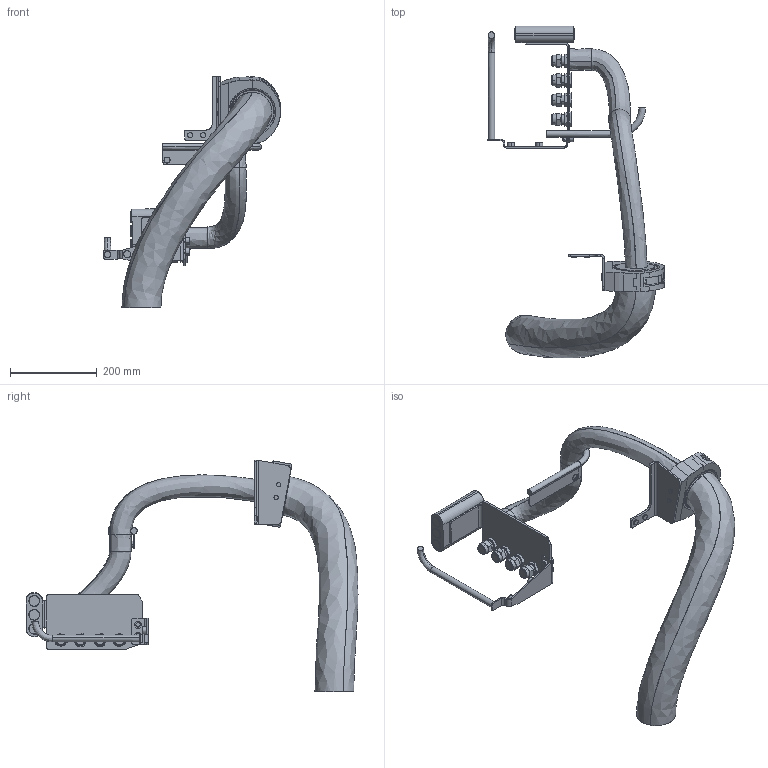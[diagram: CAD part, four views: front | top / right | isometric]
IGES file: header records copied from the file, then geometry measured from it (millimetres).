
Start section: SolidWorks IGES file using analytic representation for surfaces
Global section: file name: C:\Users\SEJAOLS6\OneDrive - ABB\Documents\SAP\7720\7720_Lightweight_models\IRB7720-LID-SW_480kg-310_OC_01_SW_J\IRB7720-LID-SW_480kg-310_OC_01_IGES_J\IRB77X0-LID-SW_All_OC_01_LINK03a_CABLE.igs; native system: SolidWorks 2024; preprocessor: SolidWorks 2024; author: SEJAOLS6; date: 260127.081409; units: millimetre
Bounding box: 409.03 x 764.46 x 533 mm (x, y, z)
Surface area: 541850.9 mm2 (no closed solid volume)
Topology: 0 solids, 0 shells, 629 faces, 9333 edges, 9333 vertices
Faces by surface type: bspline 329, revolution 300
